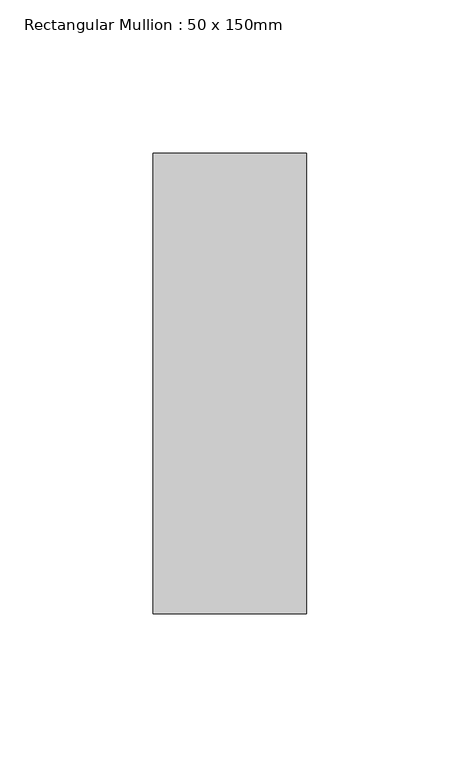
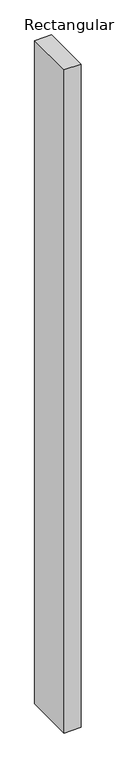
"""IFC4 building model written with IfcOpenShell, lengths in millimetres: member geometry, Rectangular Mullion : 50 x 150mm."""

from ifc_helpers import new_model, si_unit, frame, origin, place, context, project, spatial, polyline, outline, extrude, source, transform, mapped, element, save


def rectangular_mullion_50_x_150mm_fd087c06(model_context):
    return source(origin(), model_context, "Body", "SweptSolid", [
        extrude(outline(polyline([(0.0, 75.0), (0.0, -75.0), (-50.0, -75.0), (-50.0, 75.0), (0.0, 75.0)])), frame((0.0, 0.0, -2058.0), z_axis=(0.0, 0.0, 1.0), x_axis=(1.0, 0.0, 0.0)), (0.0, 0.0, 1.0), 2058.0),
    ])


if __name__ == "__main__":
    model = new_model("IFC4")
    model_context = context("Model", 3, world=origin())
    ifc_project = project(units=[si_unit("LENGTHUNIT", "METRE", prefix="MILLI")], contexts=[model_context])
    site = spatial("IfcSite", under=ifc_project)
    building = spatial("IfcBuilding", under=site)
    placement = place(None, origin())
    rectangular_mullion_50_x_150mm_shape = rectangular_mullion_50_x_150mm_fd087c06(model_context)
    element("IfcMember", 1, ObjectType="Rectangular Mullion : 50 x 150mm", at=placement, inside=building, context=model_context, shape_type="MappedRepresentation", body=[
        mapped(rectangular_mullion_50_x_150mm_shape, transform((0.0, 0.0, 0.0), x_axis=(1.0, 0.0, 0.0), y_axis=(0.0, 1.0, 0.0), z_axis=(0.0, 0.0, 1.0))),
    ])
    save(model, "model.ifc")
